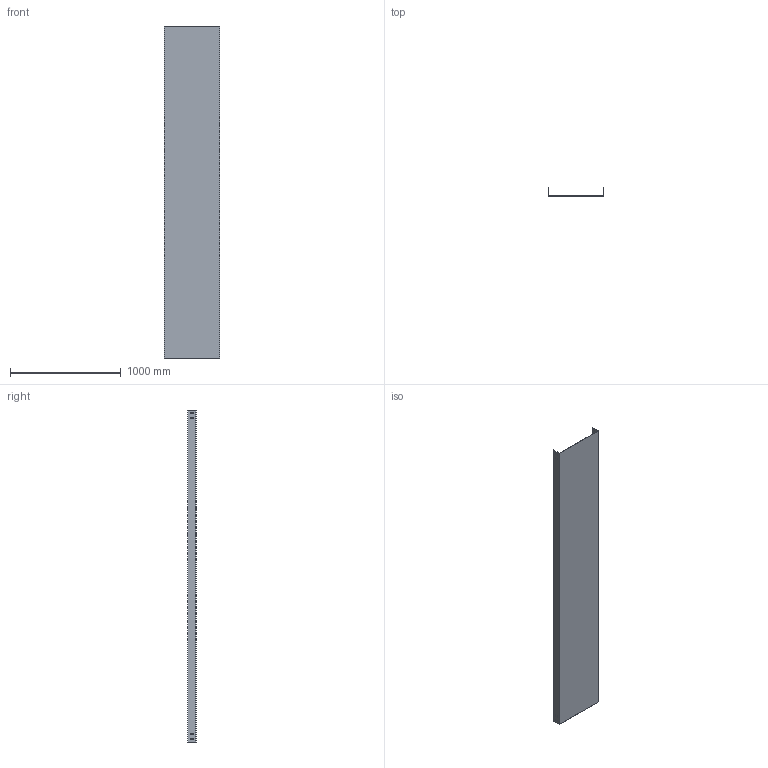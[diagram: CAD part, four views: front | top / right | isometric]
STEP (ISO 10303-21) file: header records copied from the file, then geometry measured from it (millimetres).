
FILE_DESCRIPTION (( 'STEP AP214' ), '1' );
FILE_NAME ('CC_507.step', '2025-07-16T09:04:48', ( '' ), ( '' ), 'SwSTEP 2.0', 'SolidWorks 2023', '' );
FILE_SCHEMA (( 'AUTOMOTIVE_DESIGN' ));
Length unit declared in the file: millimetre
Products named in the file (1): CC_507
Bounding box: 500 x 75 x 3000 mm (x, y, z)
Volume: 2909820 mm3; surface area: 3891517 mm2
Topology: 1 solids, 1 shells, 74 faces, 216 edges, 144 vertices
Faces by surface type: plane 74
Entity records: 2487 total; most frequent: CARTESIAN_POINT 435, ORIENTED_EDGE 432, DIRECTION 366, LINE 216, EDGE_CURVE 216, VECTOR 216, VERTEX_POINT 144, EDGE_LOOP 106
